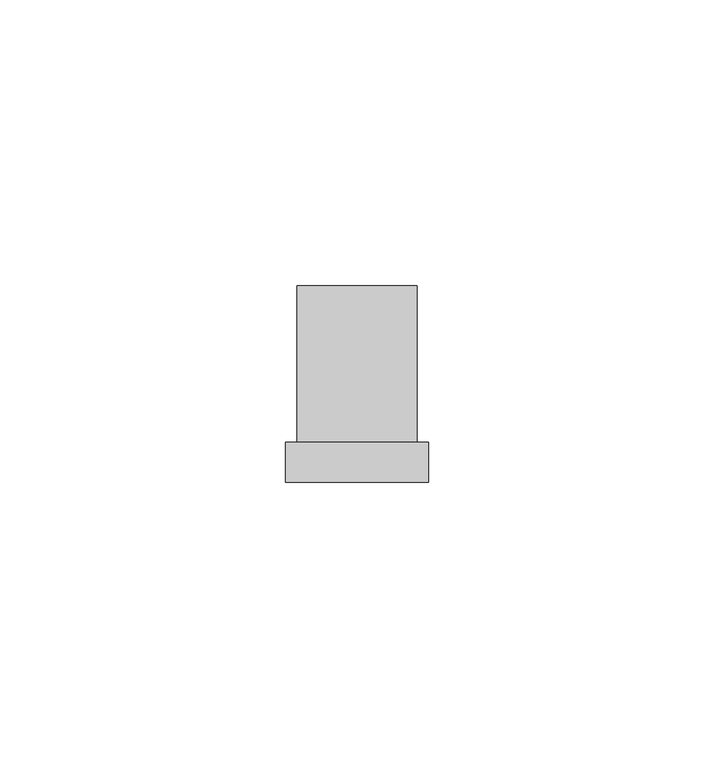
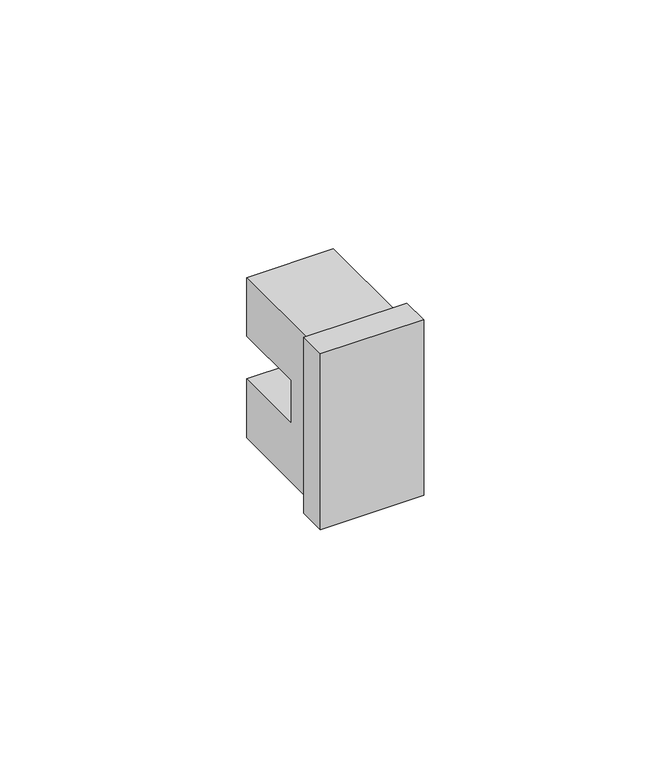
"""IFC4 building model written with IfcOpenShell, lengths in millimetres: proxy geometry, КНС_ВыключателиПереключатели_DKC : Выключатель типа кнопка."""

from ifc_helpers import new_model, si_unit, frame, origin, place, context, project, spatial, polyline, outline, extrude, source, transform, mapped, element, save


def electrical_fixtures_a3301764(model_context):
    return source(origin(), model_context, "Body", "SweptSolid", [
        extrude(outline(polyline([(12.5, -34.4), (-12.5, -34.4), (-12.5, -27.4), (12.5, -27.4), (12.5, -34.4)])), frame((0.0, 0.0, -22.5), z_axis=(0.0, 0.0, 1.0), x_axis=(1.0, 0.0, 0.0)), (0.0, 0.0, 1.0), 45.0),
        extrude(outline(polyline([(0.0, 20.5), (0.0, 5.5), (-18.7179028, 5.5), (-18.7179028, -5.4624854), (0.0, -5.4624854), (0.0, -20.5), (-27.4, -20.5), (-27.4, 20.5), (0.0, 20.5)])), frame((-10.5, 0.0, 0.0), z_axis=(1.0, 0.0, 0.0), x_axis=(0.0, 1.0, 0.0)), (0.0, 0.0, 1.0), 21.0),
    ])


if __name__ == "__main__":
    model = new_model("IFC4")
    model_context = context("Model", 3, world=origin())
    ifc_project = project(units=[si_unit("LENGTHUNIT", "METRE", prefix="MILLI")], contexts=[model_context])
    site = spatial("IfcSite", under=ifc_project)
    building = spatial("IfcBuilding", under=site)
    placement = place(None, origin())
    electrical_fixtures_shape = electrical_fixtures_a3301764(model_context)
    element("IfcBuildingElementProxy", 1, Name="КНС_ВыключателиПереключатели_DKC : Выключатель типа кнопка", ObjectType="КНС_ВыключателиПереключатели_DKC : Выключатель типа кнопка", at=placement, inside=building, context=model_context, shape_type="MappedRepresentation", body=[
        mapped(electrical_fixtures_shape, transform((0.0, 0.0, 0.0), x_axis=(1.0, 0.0, 0.0), y_axis=(0.0, 1.0, 0.0), z_axis=(0.0, 0.0, 1.0))),
    ])
    save(model, "model.ifc")
